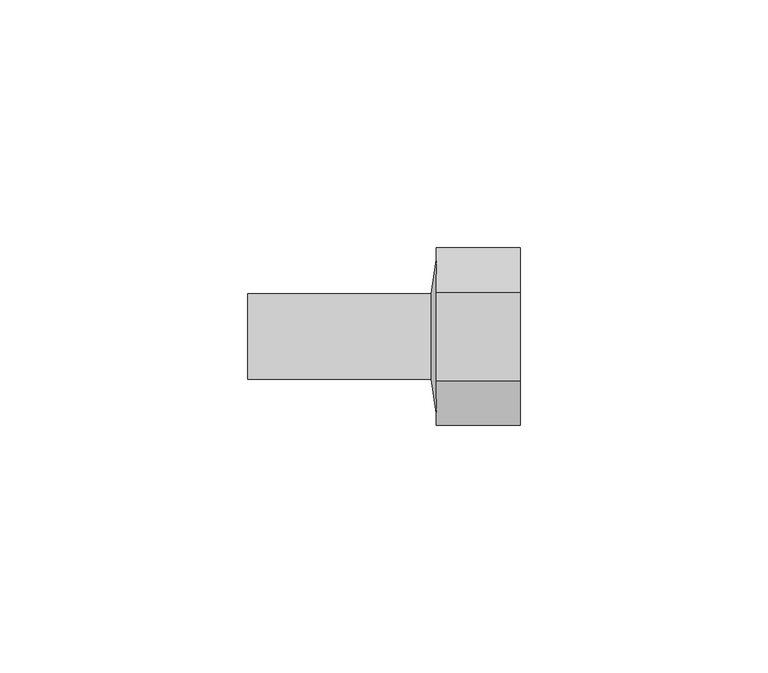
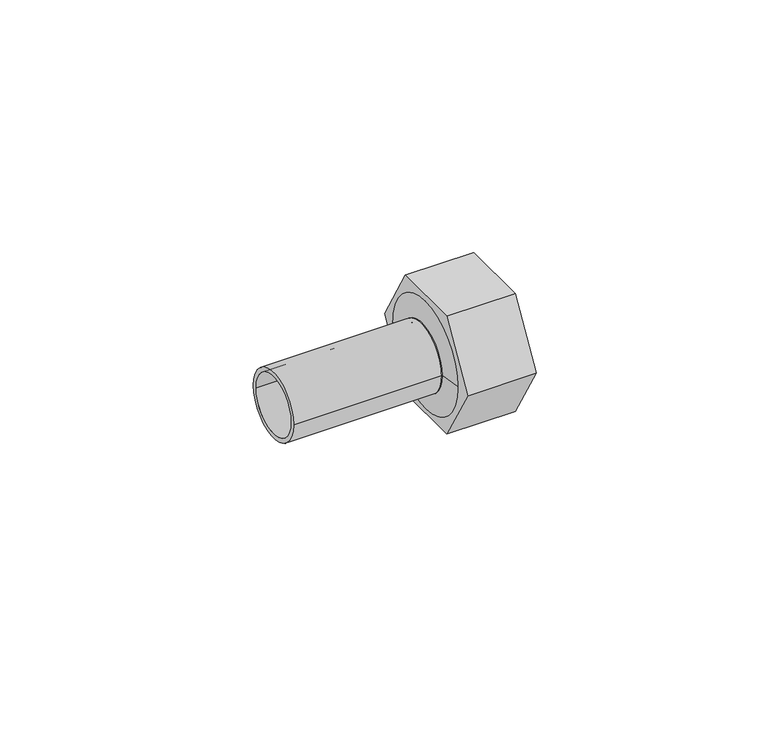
"""IFC4 building model written with IfcOpenShell, lengths in millimetres: pipe fitting geometry, VALTEC_VTi.907.I_Вставка с внутренней резьбой_Нержавеющая сталь : VTi.907.I."""

from ifc_helpers import new_model, si_unit, point, frame, origin, origin_2d, place, context, project, spatial, polyline, circle_curve, trimmed, segment, composite_curve, outline, extrude, source, transform, mapped, element, save
from ifc_brep_helpers import plane_surface, revolved_surface, advanced_brep


def pipe_fitting_b01f8f9f(model_context):
    return source(origin(), model_context, "Body", "SolidModel", [
        extrude(outline(polyline([(-17.8978583, 0.0), (-8.9489292, 15.5), (8.9489292, 15.5), (17.8978583, 0.0), (8.9489292, -15.5), (-8.9489292, -15.5), (-17.8978583, 0.0)]), holes=[composite_curve([segment(trimmed(circle_curve(origin_2d(), 10.0), [point((10.0, 0.0))], [point((-10.0, 0.0))], True, "CARTESIAN"), True, "CONTINUOUS"), segment(trimmed(circle_curve(origin_2d(), 10.0), [point((-10.0, 0.0))], [point((10.0, 0.0))], True, "CARTESIAN"), True, "CONTINUOUS")], self_intersect=False)]), frame((-8.5, 0.0, 0.0), z_axis=(1.0, 0.0, 0.0), x_axis=(0.0, 1.0, 0.0)), (0.0, 0.0, 1.0), 17.0),
        advanced_brep(
        [(-8.5, -15.5, 0.0), (-8.5, 15.5, 0.0), (-9.5, -8.625, 0.0), (-9.5, 8.625, 0.0)],
        [
            (0, 1, circle_curve(frame((-8.5, 0.0, 0.0), z_axis=(1.0, 0.0, 0.0), x_axis=(0.0, -1.0, 0.0)), 15.5)),
            (1, 0, circle_curve(frame((-8.5, 0.0, 0.0), z_axis=(1.0, 0.0, 0.0), x_axis=(0.0, 1.0, 0.0)), 15.5)),
            (2, 3, circle_curve(frame((-9.5, 0.0, 0.0), z_axis=(-1.0, 0.0, 0.0), x_axis=(0.0, 1.0, 0.0)), 8.625)),
            (3, 2, circle_curve(frame((-9.5, 0.0, 0.0), z_axis=(-1.0, 0.0, 0.0), x_axis=(0.0, -1.0, 0.0)), 8.625)),
            (3, 1),
            (0, 2),
        ],
        [
            plane_surface(frame((-8.5, 0.0, 0.0), z_axis=(1.0, 0.0, 0.0), x_axis=(0.0, 0.0, -1.0))),
            plane_surface(frame((-9.5, 0.0, 0.0), z_axis=(-1.0, 0.0, 0.0), x_axis=(0.0, 0.0, -1.0))),
            revolved_surface(polyline([(-9.5, 8.62500013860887, 0.0), (-8.5, 15.5, 0.0)]), (-10.7545455, 0.0, 0.0), (1.0, 0.0, 0.0)),
            revolved_surface(polyline([(-9.5, -8.62500013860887, 0.0), (-8.5, -15.5, 0.0)]), (-10.7545455, 0.0, 0.0), (1.0, 0.0, 0.0)),
        ],
        [
            (0, [[1, 2]]),
            (1, [[3, 4]]),
            (2, [[-4, 5, -1, 6]]),
            (3, [[-3, -6, -2, -5]]),
        ],
    ),
        extrude(outline(composite_curve([segment(trimmed(circle_curve(origin_2d(), 8.625), [point((-8.625, 0.0))], [point((8.625, 0.0))], False, "CARTESIAN"), True, "CONTINUOUS"), segment(trimmed(circle_curve(origin_2d(), 8.625), [point((8.625, 0.0))], [point((-8.625, 0.0))], False, "CARTESIAN"), True, "CONTINUOUS")], self_intersect=False), holes=[composite_curve([segment(trimmed(circle_curve(origin_2d(), 7.5), [point((-7.5, 0.0))], [point((7.5, 0.0))], True, "CARTESIAN"), True, "CONTINUOUS"), segment(trimmed(circle_curve(origin_2d(), 7.5), [point((7.5, 0.0))], [point((-7.5, 0.0))], True, "CARTESIAN"), True, "CONTINUOUS")], self_intersect=False)]), frame((-46.5, 0.0, 0.0), z_axis=(1.0, 0.0, 0.0), x_axis=(0.0, 1.0, 0.0)), (0.0, 0.0, 1.0), 37.0),
    ])


if __name__ == "__main__":
    model = new_model("IFC4")
    model_context = context("Model", 3, world=origin())
    ifc_project = project(units=[si_unit("LENGTHUNIT", "METRE", prefix="MILLI")], contexts=[model_context])
    site = spatial("IfcSite", under=ifc_project)
    building = spatial("IfcBuilding", under=site)
    placement = place(None, origin())
    pipe_fitting_shape = pipe_fitting_b01f8f9f(model_context)
    element("IfcPipeFitting", 1, ObjectType="VALTEC_VTi.907.I_Вставка с внутренней резьбой_Нержавеющая сталь : VTi.907.I", at=placement, inside=building, context=model_context, shape_type="MappedRepresentation", body=[
        mapped(pipe_fitting_shape, transform((0.0, 0.0, 0.0), x_axis=(1.0, 0.0, 0.0), y_axis=(0.0, 1.0, 0.0), z_axis=(0.0, 0.0, 1.0))),
    ])
    save(model, "model.ifc")
